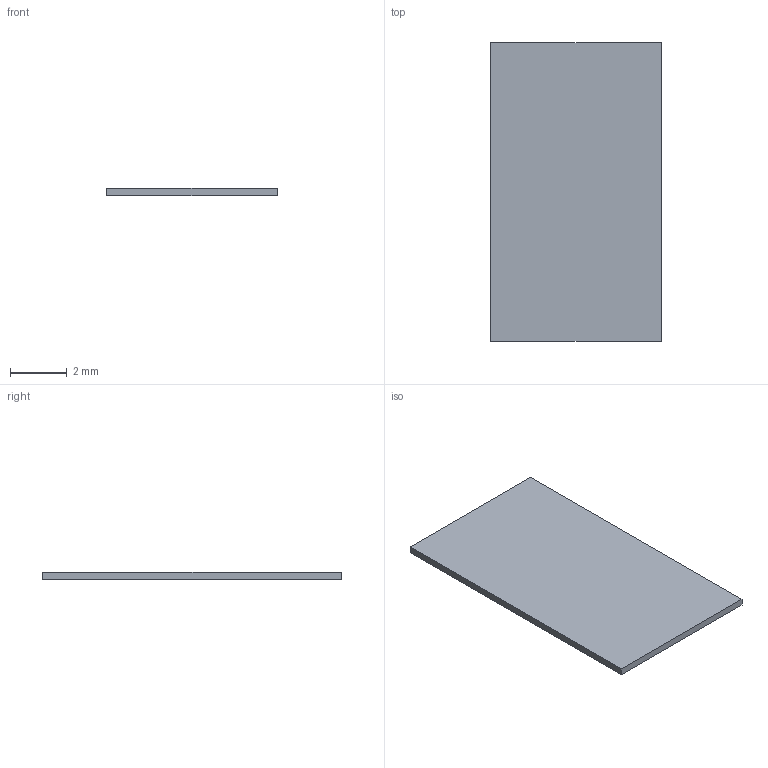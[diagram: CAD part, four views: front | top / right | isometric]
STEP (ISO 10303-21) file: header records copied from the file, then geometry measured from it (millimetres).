
FILE_DESCRIPTION(('Open CASCADE Model'),'2;1');
FILE_NAME('R36_STOCK_MIC_SADDLE_SILICONE_TRIMMED_6x10p5x0p25_FINAL', '2026-09-15T15:14:36',('Author'),('Open CASCADE'), 'Open CASCADE STEP processor 7.9','build123d','Unknown');
FILE_SCHEMA(('AUTOMOTIVE_DESIGN { 1 0 10303 214 1 1 1 1 }'));
Length unit declared in the file: millimetre
Products named in the file (1): R36_STOCK_MIC_SADDLE_SILICONE_TRIMMED_6x10p5x0p25_FINAL
Bounding box: 6 x 10.5 x 0.25 mm (x, y, z)
Volume: 15.8 mm3; surface area: 134.2 mm2
Topology: 1 solids, 1 shells, 6 faces, 12 edges, 8 vertices
Faces by surface type: plane 6
Entity records: 322 total; most frequent: CARTESIAN_POINT 51, DIRECTION 50, LINE 36, VECTOR 36, ORIENTED_EDGE 24, PCURVE 24, DEFINITIONAL_REPRESENTATION 24, EDGE_CURVE 12
